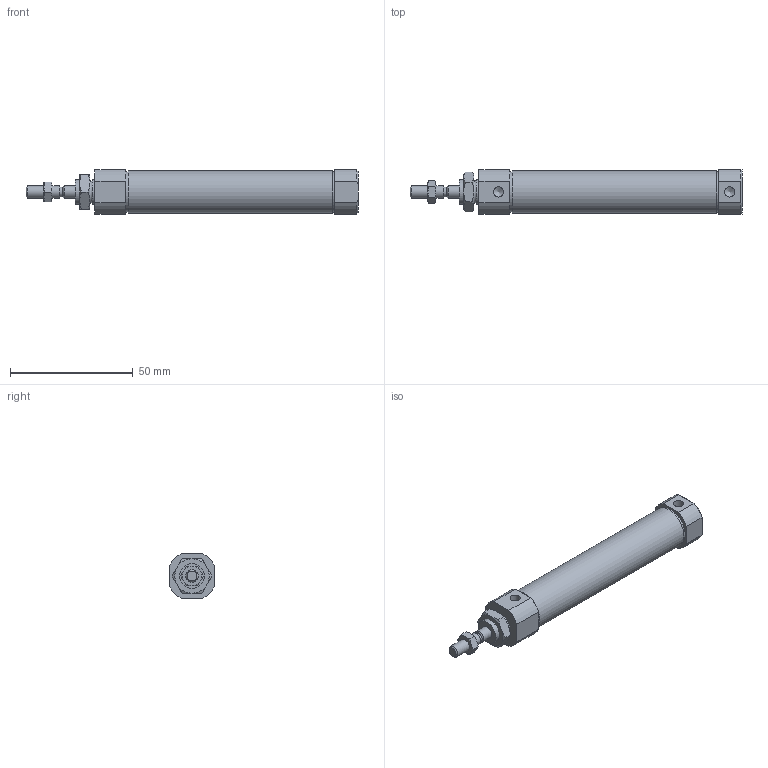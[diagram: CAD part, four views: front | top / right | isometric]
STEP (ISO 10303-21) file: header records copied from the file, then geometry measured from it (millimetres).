
FILE_DESCRIPTION((''),'2;1');
FILE_NAME('I:\3D電子目錄\氣缸\SBA\SBA\SBA16\SBA16x60.stp','2007-10-04T11:57:19',('66-2f-008'),(''),'Autodesk Inventor 11','Autodesk Inventor 11','');
FILE_SCHEMA(('AUTOMOTIVE_DESIGN { 1 0 10303 214 1 1 1 1 }'));
Length unit declared in the file: millimetre
Products named in the file (1): SBA16
Bounding box: 135 x 18 x 18 mm (x, y, z)
Volume: 27398.3 mm3; surface area: 7783.8 mm2
Topology: 1 solids, 1 shells, 88 faces, 192 edges, 117 vertices
Faces by surface type: plane 35, cone 30, cylinder 18, bspline 5
Full cylindrical faces by diameter (mm): 4 x1, 5 x3, 10 x3, 16.54 x2, 17.2 x1
Entity records: 2363 total; most frequent: CARTESIAN_POINT 637, DIRECTION 352, ORIENTED_EDGE 342, EDGE_CURVE 171, AXIS2_PLACEMENT_3D 153, EDGE_LOOP 116, VERTEX_POINT 113, FACE_OUTER_BOUND 88
